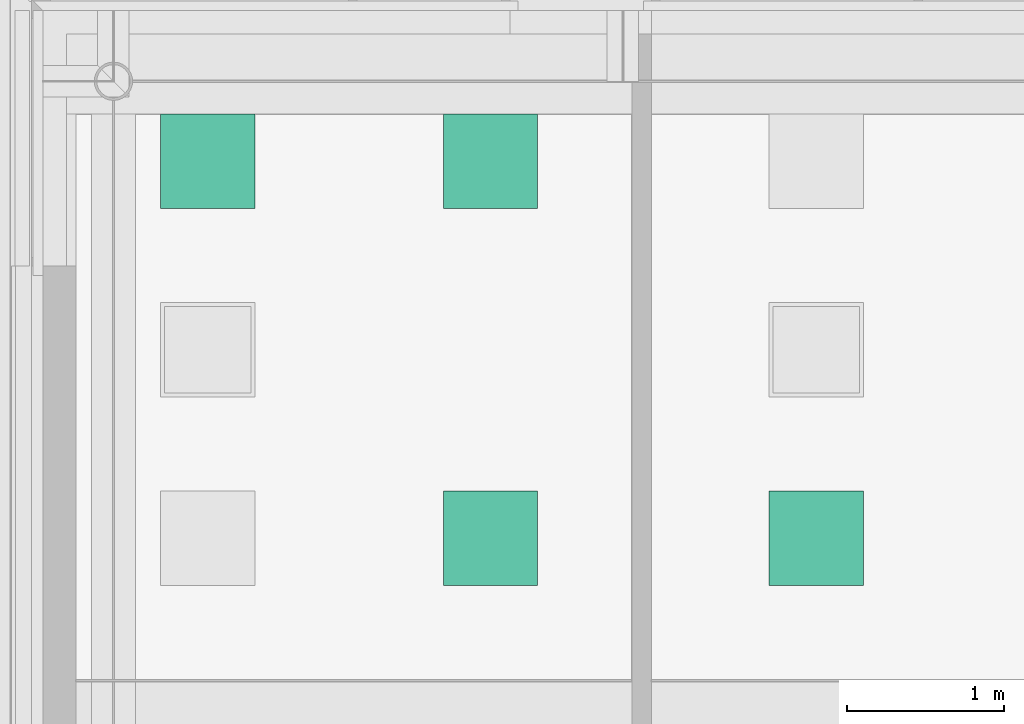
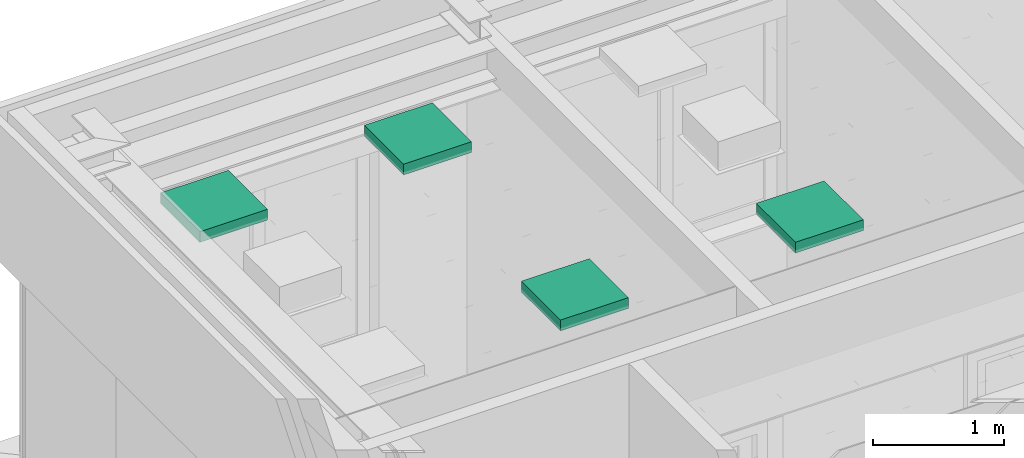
# One storey, part 196 of 347: 4 flow terminals.
"""IFC2X3 building model written with IfcOpenShell, lengths in millimetres."""

from ifc_helpers import new_model, entity, si_unit, converted_unit, derived_unit, money_unit, direction, frame, origin_with_axes, place, context, subcontext, project, spatial, open_shell, faceted_brep, surface_model, source, transform, mapped, type_object, type_shapes, element, save


model = new_model("IFC2X3")

# Units and contexts
model_context = context("Model", 3, precision=0.01, world=origin_with_axes(), true_north=direction((0.0, 1.0)))
plan_context = context("Plan", 3, precision=0.01, world=origin_with_axes(), true_north=direction((0.0, 1.0)))
body_context = subcontext(model_context, "Body", "Model", "MODEL_VIEW")
ifc_project = project(units=[si_unit("LENGTHUNIT", "METRE", prefix="MILLI"), si_unit("AREAUNIT", "SQUARE_METRE"), si_unit("VOLUMEUNIT", "CUBIC_METRE"), converted_unit("PLANEANGLEUNIT", "DEGREE", entity("IfcPlaneAngleMeasure", 0.0174532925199), si_unit("PLANEANGLEUNIT", "RADIAN"), dimensions=[0, 0, 0, 0, 0, 0, 0]), money_unit("EUR"), converted_unit("TIMEUNIT", "Year", entity("IfcTimeMeasure", 31556926.0), si_unit("TIMEUNIT", "SECOND"), dimensions=[0, 0, 1, 0, 0, 0, 0]), si_unit("MASSUNIT", "GRAM", prefix="KILO"), si_unit("THERMODYNAMICTEMPERATUREUNIT", "DEGREE_CELSIUS"), si_unit("LUMINOUSINTENSITYUNIT", "LUMEN"), si_unit("ENERGYUNIT", "JOULE", prefix="MEGA"), derived_unit("THERMALCONDUCTANCEUNIT", [(si_unit("POWERUNIT", "WATT"), 1), (si_unit("LENGTHUNIT", "METRE"), -1), (si_unit("THERMODYNAMICTEMPERATUREUNIT", "KELVIN"), -1)]), derived_unit("SPECIFICHEATCAPACITYUNIT", [(si_unit("ENERGYUNIT", "JOULE"), 1), (si_unit("MASSUNIT", "GRAM", prefix="KILO"), -1), (si_unit("THERMODYNAMICTEMPERATUREUNIT", "KELVIN"), -1)]), derived_unit("MASSDENSITYUNIT", [(si_unit("MASSUNIT", "GRAM", prefix="KILO"), 1), (si_unit("VOLUMEUNIT", "CUBIC_METRE"), -1)])], contexts=[model_context, plan_context])

# Site, building, storey
site_placement = place(None, origin_with_axes())
site = spatial("IfcSite", under=ifc_project, at=site_placement, Name="Site", CompositionType="ELEMENT")
building_placement = place(site_placement, origin_with_axes())
building = spatial("IfcBuilding", under=site, at=building_placement, Name="Naam gebouw", CompositionType="ELEMENT")
storey_placement = place(building_placement, origin_with_axes())
storey = spatial("IfcBuildingStorey", under=building, at=storey_placement, Name="begane grond", CompositionType="ELEMENT", Elevation=0.0)

# Flow terminals
lamp_type = type_object("IfcLampType", Name="TL plafond 25", PredefinedType="NOTDEFINED")
shared_shape = source(origin_with_axes(), body_context, "Body", "SurfaceModel", [
    faceted_brep([(0.0, 0.0, -100.0), (600.0, 0.0, -100.0), (600.0, 0.0, 0.0), (0.0, 0.0, 0.0), (0.0, 600.0, -100.0), (600.0, 600.0, -100.0), (40.0, 40.0, -100.0), (560.0, 40.0, -100.0), (560.0, 560.0, -100.0), (40.0, 560.0, -100.0), (600.0, 600.0, 0.0), (0.0, 600.0, 0.0), (40.0, 40.0, 0.0), (40.0, 560.0, 0.0), (560.0, 560.0, 0.0), (560.0, 40.0, 0.0)], [[[0, 1, 2, 3]], [[0, 4, 5, 1], [6, 7, 8, 9]], [[1, 5, 10, 2]], [[3, 2, 10, 11], [12, 13, 14, 15]], [[4, 0, 3, 11]], [[5, 4, 11, 10]], [[7, 6, 12, 15]], [[8, 7, 15, 14]], [[9, 8, 14, 13]], [[6, 9, 13, 12]]]),
    faceted_brep([(40.0, 40.0, -16.3333333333), (560.0, 40.0, -16.3333333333), (560.0, 40.0, 0.0), (40.0, 40.0, 0.0), (40.0, 560.0, -16.3333333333), (560.0, 560.0, -16.3333333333), (560.0, 560.0, 0.0), (40.0, 560.0, 0.0)], [[[0, 1, 2, 3]], [[0, 4, 5, 1]], [[1, 5, 6, 2]], [[3, 2, 6, 7]], [[4, 0, 3, 7]], [[5, 4, 7, 6]]]),
    surface_model("IfcShellBasedSurfaceModel", [(559.0, 41.0, -100.0), (40.0, 41.0, -100.0), (40.0, 559.0, -100.0), (559.0, 559.0, -100.0)], [open_shell([[[0, 1, 2, 3]]])]),
    faceted_brep([(40.0, 40.0, -100.0), (560.0, 40.0, -100.0), (560.0, 40.0, -60.0), (40.0, 40.0, -60.0), (40.0, 560.0, -100.0), (560.0, 560.0, -100.0), (41.0, 41.0, -100.0), (559.0, 41.0, -100.0), (559.0, 559.0, -100.0), (41.0, 559.0, -100.0), (560.0, 560.0, -60.0), (40.0, 560.0, -60.0), (41.0, 41.0, -60.0), (41.0, 559.0, -60.0), (559.0, 559.0, -60.0), (559.0, 41.0, -60.0)], [[[0, 1, 2, 3]], [[0, 4, 5, 1], [6, 7, 8, 9]], [[1, 5, 10, 2]], [[3, 2, 10, 11], [12, 13, 14, 15]], [[4, 0, 3, 11]], [[5, 4, 11, 10]], [[7, 6, 12, 15]], [[8, 7, 15, 14]], [[9, 8, 14, 13]], [[6, 9, 13, 12]]]),
    faceted_brep([(40.0, 144.0, -48.3333333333), (40.0, 149.740251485, -47.191526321), (560.0, 149.740251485, -47.191526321), (560.0, 144.0, -48.3333333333), (40.0, 138.259748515, -47.191526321), (40.0, 133.393398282, -43.9399350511), (40.0, 130.141807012, -39.0735848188), (40.0, 129.0, -33.3333333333), (40.0, 130.141807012, -27.5930818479), (40.0, 133.393398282, -22.7267316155), (40.0, 138.259748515, -19.4751403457), (40.0, 144.0, -18.3333333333), (40.0, 149.740251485, -19.4751403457), (40.0, 154.606601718, -22.7267316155), (40.0, 157.858192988, -27.5930818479), (40.0, 159.0, -33.3333333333), (40.0, 157.858192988, -39.0735848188), (40.0, 154.606601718, -43.9399350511), (40.0, 144.0, -46.3333333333), (40.0, 148.974884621, -45.343767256), (40.0, 153.192388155, -42.5257214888), (40.0, 156.010433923, -38.3082179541), (40.0, 157.0, -33.3333333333), (40.0, 156.010433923, -28.3584487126), (40.0, 153.192388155, -24.1409451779), (40.0, 148.974884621, -21.3228994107), (40.0, 144.0, -20.3333333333), (40.0, 139.025115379, -21.3228994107), (40.0, 134.807611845, -24.1409451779), (40.0, 131.989566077, -28.3584487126), (40.0, 131.0, -33.3333333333), (40.0, 131.989566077, -38.3082179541), (40.0, 134.807611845, -42.5257214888), (40.0, 139.025115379, -45.343767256), (560.0, 154.606601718, -43.9399350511), (560.0, 157.858192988, -39.0735848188), (560.0, 159.0, -33.3333333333), (560.0, 157.858192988, -27.5930818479), (560.0, 154.606601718, -22.7267316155), (560.0, 149.740251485, -19.4751403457), (560.0, 144.0, -18.3333333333), (560.0, 138.259748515, -19.4751403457), (560.0, 133.393398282, -22.7267316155), (560.0, 130.141807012, -27.5930818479), (560.0, 129.0, -33.3333333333), (560.0, 130.141807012, -39.0735848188), (560.0, 133.393398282, -43.9399350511), (560.0, 138.259748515, -47.191526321), (560.0, 144.0, -46.3333333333), (560.0, 139.025115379, -45.343767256), (560.0, 134.807611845, -42.5257214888), (560.0, 131.989566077, -38.3082179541), (560.0, 131.0, -33.3333333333), (560.0, 131.989566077, -28.3584487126), (560.0, 134.807611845, -24.1409451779), (560.0, 139.025115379, -21.3228994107), (560.0, 144.0, -20.3333333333), (560.0, 148.974884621, -21.3228994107), (560.0, 153.192388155, -24.1409451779), (560.0, 156.010433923, -28.3584487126), (560.0, 157.0, -33.3333333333), (560.0, 156.010433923, -38.3082179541), (560.0, 153.192388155, -42.5257214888), (560.0, 148.974884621, -45.343767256)], [[[0, 1, 2, 3]], [[0, 4, 5, 6, 7, 8, 9, 10, 11, 12, 13, 14, 15, 16, 17, 1], [18, 19, 20, 21, 22, 23, 24, 25, 26, 27, 28, 29, 30, 31, 32, 33]], [[1, 17, 34, 2]], [[3, 2, 34, 35, 36, 37, 38, 39, 40, 41, 42, 43, 44, 45, 46, 47], [48, 49, 50, 51, 52, 53, 54, 55, 56, 57, 58, 59, 60, 61, 62, 63]], [[4, 0, 3, 47]], [[5, 4, 47, 46]], [[6, 5, 46, 45]], [[7, 6, 45, 44]], [[8, 7, 44, 43]], [[9, 8, 43, 42]], [[10, 9, 42, 41]], [[11, 10, 41, 40]], [[12, 11, 40, 39]], [[13, 12, 39, 38]], [[14, 13, 38, 37]], [[15, 14, 37, 36]], [[16, 15, 36, 35]], [[17, 16, 35, 34]], [[19, 18, 48, 63]], [[20, 19, 63, 62]], [[21, 20, 62, 61]], [[22, 21, 61, 60]], [[23, 22, 60, 59]], [[24, 23, 59, 58]], [[25, 24, 58, 57]], [[26, 25, 57, 56]], [[27, 26, 56, 55]], [[28, 27, 55, 54]], [[29, 28, 54, 53]], [[30, 29, 53, 52]], [[31, 30, 52, 51]], [[32, 31, 51, 50]], [[33, 32, 50, 49]], [[18, 33, 49, 48]]]),
    faceted_brep([(40.0, 248.0, -48.3333333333), (40.0, 253.740251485, -47.191526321), (560.0, 253.740251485, -47.191526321), (560.0, 248.0, -48.3333333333), (40.0, 242.259748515, -47.191526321), (40.0, 237.393398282, -43.9399350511), (40.0, 234.141807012, -39.0735848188), (40.0, 233.0, -33.3333333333), (40.0, 234.141807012, -27.5930818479), (40.0, 237.393398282, -22.7267316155), (40.0, 242.259748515, -19.4751403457), (40.0, 248.0, -18.3333333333), (40.0, 253.740251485, -19.4751403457), (40.0, 258.606601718, -22.7267316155), (40.0, 261.858192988, -27.5930818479), (40.0, 263.0, -33.3333333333), (40.0, 261.858192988, -39.0735848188), (40.0, 258.606601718, -43.9399350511), (40.0, 248.0, -46.3333333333), (40.0, 252.974884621, -45.343767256), (40.0, 257.192388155, -42.5257214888), (40.0, 260.010433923, -38.3082179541), (40.0, 261.0, -33.3333333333), (40.0, 260.010433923, -28.3584487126), (40.0, 257.192388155, -24.1409451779), (40.0, 252.974884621, -21.3228994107), (40.0, 248.0, -20.3333333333), (40.0, 243.025115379, -21.3228994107), (40.0, 238.807611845, -24.1409451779), (40.0, 235.989566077, -28.3584487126), (40.0, 235.0, -33.3333333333), (40.0, 235.989566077, -38.3082179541), (40.0, 238.807611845, -42.5257214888), (40.0, 243.025115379, -45.343767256), (560.0, 258.606601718, -43.9399350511), (560.0, 261.858192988, -39.0735848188), (560.0, 263.0, -33.3333333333), (560.0, 261.858192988, -27.5930818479), (560.0, 258.606601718, -22.7267316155), (560.0, 253.740251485, -19.4751403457), (560.0, 248.0, -18.3333333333), (560.0, 242.259748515, -19.4751403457), (560.0, 237.393398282, -22.7267316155), (560.0, 234.141807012, -27.5930818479), (560.0, 233.0, -33.3333333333), (560.0, 234.141807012, -39.0735848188), (560.0, 237.393398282, -43.9399350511), (560.0, 242.259748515, -47.191526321), (560.0, 248.0, -46.3333333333), (560.0, 243.025115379, -45.343767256), (560.0, 238.807611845, -42.5257214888), (560.0, 235.989566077, -38.3082179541), (560.0, 235.0, -33.3333333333), (560.0, 235.989566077, -28.3584487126), (560.0, 238.807611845, -24.1409451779), (560.0, 243.025115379, -21.3228994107), (560.0, 248.0, -20.3333333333), (560.0, 252.974884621, -21.3228994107), (560.0, 257.192388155, -24.1409451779), (560.0, 260.010433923, -28.3584487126), (560.0, 261.0, -33.3333333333), (560.0, 260.010433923, -38.3082179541), (560.0, 257.192388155, -42.5257214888), (560.0, 252.974884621, -45.343767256)], [[[0, 1, 2, 3]], [[0, 4, 5, 6, 7, 8, 9, 10, 11, 12, 13, 14, 15, 16, 17, 1], [18, 19, 20, 21, 22, 23, 24, 25, 26, 27, 28, 29, 30, 31, 32, 33]], [[1, 17, 34, 2]], [[3, 2, 34, 35, 36, 37, 38, 39, 40, 41, 42, 43, 44, 45, 46, 47], [48, 49, 50, 51, 52, 53, 54, 55, 56, 57, 58, 59, 60, 61, 62, 63]], [[4, 0, 3, 47]], [[5, 4, 47, 46]], [[6, 5, 46, 45]], [[7, 6, 45, 44]], [[8, 7, 44, 43]], [[9, 8, 43, 42]], [[10, 9, 42, 41]], [[11, 10, 41, 40]], [[12, 11, 40, 39]], [[13, 12, 39, 38]], [[14, 13, 38, 37]], [[15, 14, 37, 36]], [[16, 15, 36, 35]], [[17, 16, 35, 34]], [[19, 18, 48, 63]], [[20, 19, 63, 62]], [[21, 20, 62, 61]], [[22, 21, 61, 60]], [[23, 22, 60, 59]], [[24, 23, 59, 58]], [[25, 24, 58, 57]], [[26, 25, 57, 56]], [[27, 26, 56, 55]], [[28, 27, 55, 54]], [[29, 28, 54, 53]], [[30, 29, 53, 52]], [[31, 30, 52, 51]], [[32, 31, 51, 50]], [[33, 32, 50, 49]], [[18, 33, 49, 48]]]),
    faceted_brep([(40.0, 352.0, -48.3333333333), (40.0, 357.740251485, -47.191526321), (560.0, 357.740251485, -47.191526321), (560.0, 352.0, -48.3333333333), (40.0, 346.259748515, -47.191526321), (40.0, 341.393398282, -43.9399350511), (40.0, 338.141807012, -39.0735848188), (40.0, 337.0, -33.3333333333), (40.0, 338.141807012, -27.5930818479), (40.0, 341.393398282, -22.7267316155), (40.0, 346.259748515, -19.4751403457), (40.0, 352.0, -18.3333333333), (40.0, 357.740251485, -19.4751403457), (40.0, 362.606601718, -22.7267316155), (40.0, 365.858192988, -27.5930818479), (40.0, 367.0, -33.3333333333), (40.0, 365.858192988, -39.0735848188), (40.0, 362.606601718, -43.9399350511), (40.0, 352.0, -46.3333333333), (40.0, 356.974884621, -45.343767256), (40.0, 361.192388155, -42.5257214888), (40.0, 364.010433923, -38.3082179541), (40.0, 365.0, -33.3333333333), (40.0, 364.010433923, -28.3584487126), (40.0, 361.192388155, -24.1409451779), (40.0, 356.974884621, -21.3228994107), (40.0, 352.0, -20.3333333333), (40.0, 347.025115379, -21.3228994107), (40.0, 342.807611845, -24.1409451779), (40.0, 339.989566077, -28.3584487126), (40.0, 339.0, -33.3333333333), (40.0, 339.989566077, -38.3082179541), (40.0, 342.807611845, -42.5257214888), (40.0, 347.025115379, -45.343767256), (560.0, 362.606601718, -43.9399350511), (560.0, 365.858192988, -39.0735848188), (560.0, 367.0, -33.3333333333), (560.0, 365.858192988, -27.5930818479), (560.0, 362.606601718, -22.7267316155), (560.0, 357.740251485, -19.4751403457), (560.0, 352.0, -18.3333333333), (560.0, 346.259748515, -19.4751403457), (560.0, 341.393398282, -22.7267316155), (560.0, 338.141807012, -27.5930818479), (560.0, 337.0, -33.3333333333), (560.0, 338.141807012, -39.0735848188), (560.0, 341.393398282, -43.9399350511), (560.0, 346.259748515, -47.191526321), (560.0, 352.0, -46.3333333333), (560.0, 347.025115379, -45.343767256), (560.0, 342.807611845, -42.5257214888), (560.0, 339.989566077, -38.3082179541), (560.0, 339.0, -33.3333333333), (560.0, 339.989566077, -28.3584487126), (560.0, 342.807611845, -24.1409451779), (560.0, 347.025115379, -21.3228994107), (560.0, 352.0, -20.3333333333), (560.0, 356.974884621, -21.3228994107), (560.0, 361.192388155, -24.1409451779), (560.0, 364.010433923, -28.3584487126), (560.0, 365.0, -33.3333333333), (560.0, 364.010433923, -38.3082179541), (560.0, 361.192388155, -42.5257214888), (560.0, 356.974884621, -45.343767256)], [[[0, 1, 2, 3]], [[0, 4, 5, 6, 7, 8, 9, 10, 11, 12, 13, 14, 15, 16, 17, 1], [18, 19, 20, 21, 22, 23, 24, 25, 26, 27, 28, 29, 30, 31, 32, 33]], [[1, 17, 34, 2]], [[3, 2, 34, 35, 36, 37, 38, 39, 40, 41, 42, 43, 44, 45, 46, 47], [48, 49, 50, 51, 52, 53, 54, 55, 56, 57, 58, 59, 60, 61, 62, 63]], [[4, 0, 3, 47]], [[5, 4, 47, 46]], [[6, 5, 46, 45]], [[7, 6, 45, 44]], [[8, 7, 44, 43]], [[9, 8, 43, 42]], [[10, 9, 42, 41]], [[11, 10, 41, 40]], [[12, 11, 40, 39]], [[13, 12, 39, 38]], [[14, 13, 38, 37]], [[15, 14, 37, 36]], [[16, 15, 36, 35]], [[17, 16, 35, 34]], [[19, 18, 48, 63]], [[20, 19, 63, 62]], [[21, 20, 62, 61]], [[22, 21, 61, 60]], [[23, 22, 60, 59]], [[24, 23, 59, 58]], [[25, 24, 58, 57]], [[26, 25, 57, 56]], [[27, 26, 56, 55]], [[28, 27, 55, 54]], [[29, 28, 54, 53]], [[30, 29, 53, 52]], [[31, 30, 52, 51]], [[32, 31, 51, 50]], [[33, 32, 50, 49]], [[18, 33, 49, 48]]]),
    faceted_brep([(40.0, 456.0, -48.3333333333), (40.0, 461.740251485, -47.191526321), (560.0, 461.740251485, -47.191526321), (560.0, 456.0, -48.3333333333), (40.0, 450.259748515, -47.191526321), (40.0, 445.393398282, -43.9399350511), (40.0, 442.141807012, -39.0735848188), (40.0, 441.0, -33.3333333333), (40.0, 442.141807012, -27.5930818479), (40.0, 445.393398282, -22.7267316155), (40.0, 450.259748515, -19.4751403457), (40.0, 456.0, -18.3333333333), (40.0, 461.740251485, -19.4751403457), (40.0, 466.606601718, -22.7267316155), (40.0, 469.858192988, -27.5930818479), (40.0, 471.0, -33.3333333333), (40.0, 469.858192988, -39.0735848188), (40.0, 466.606601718, -43.9399350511), (40.0, 456.0, -46.3333333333), (40.0, 460.974884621, -45.343767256), (40.0, 465.192388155, -42.5257214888), (40.0, 468.010433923, -38.3082179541), (40.0, 469.0, -33.3333333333), (40.0, 468.010433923, -28.3584487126), (40.0, 465.192388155, -24.1409451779), (40.0, 460.974884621, -21.3228994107), (40.0, 456.0, -20.3333333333), (40.0, 451.025115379, -21.3228994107), (40.0, 446.807611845, -24.1409451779), (40.0, 443.989566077, -28.3584487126), (40.0, 443.0, -33.3333333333), (40.0, 443.989566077, -38.3082179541), (40.0, 446.807611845, -42.5257214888), (40.0, 451.025115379, -45.343767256), (560.0, 466.606601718, -43.9399350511), (560.0, 469.858192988, -39.0735848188), (560.0, 471.0, -33.3333333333), (560.0, 469.858192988, -27.5930818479), (560.0, 466.606601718, -22.7267316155), (560.0, 461.740251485, -19.4751403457), (560.0, 456.0, -18.3333333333), (560.0, 450.259748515, -19.4751403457), (560.0, 445.393398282, -22.7267316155), (560.0, 442.141807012, -27.5930818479), (560.0, 441.0, -33.3333333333), (560.0, 442.141807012, -39.0735848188), (560.0, 445.393398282, -43.9399350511), (560.0, 450.259748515, -47.191526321), (560.0, 456.0, -46.3333333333), (560.0, 451.025115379, -45.343767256), (560.0, 446.807611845, -42.5257214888), (560.0, 443.989566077, -38.3082179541), (560.0, 443.0, -33.3333333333), (560.0, 443.989566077, -28.3584487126), (560.0, 446.807611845, -24.1409451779), (560.0, 451.025115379, -21.3228994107), (560.0, 456.0, -20.3333333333), (560.0, 460.974884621, -21.3228994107), (560.0, 465.192388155, -24.1409451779), (560.0, 468.010433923, -28.3584487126), (560.0, 469.0, -33.3333333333), (560.0, 468.010433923, -38.3082179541), (560.0, 465.192388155, -42.5257214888), (560.0, 460.974884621, -45.343767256)], [[[0, 1, 2, 3]], [[0, 4, 5, 6, 7, 8, 9, 10, 11, 12, 13, 14, 15, 16, 17, 1], [18, 19, 20, 21, 22, 23, 24, 25, 26, 27, 28, 29, 30, 31, 32, 33]], [[1, 17, 34, 2]], [[3, 2, 34, 35, 36, 37, 38, 39, 40, 41, 42, 43, 44, 45, 46, 47], [48, 49, 50, 51, 52, 53, 54, 55, 56, 57, 58, 59, 60, 61, 62, 63]], [[4, 0, 3, 47]], [[5, 4, 47, 46]], [[6, 5, 46, 45]], [[7, 6, 45, 44]], [[8, 7, 44, 43]], [[9, 8, 43, 42]], [[10, 9, 42, 41]], [[11, 10, 41, 40]], [[12, 11, 40, 39]], [[13, 12, 39, 38]], [[14, 13, 38, 37]], [[15, 14, 37, 36]], [[16, 15, 36, 35]], [[17, 16, 35, 34]], [[19, 18, 48, 63]], [[20, 19, 63, 62]], [[21, 20, 62, 61]], [[22, 21, 61, 60]], [[23, 22, 60, 59]], [[24, 23, 59, 58]], [[25, 24, 58, 57]], [[26, 25, 57, 56]], [[27, 26, 56, 55]], [[28, 27, 55, 54]], [[29, 28, 54, 53]], [[30, 29, 53, 52]], [[31, 30, 52, 51]], [[32, 31, 51, 50]], [[33, 32, 50, 49]], [[18, 33, 49, 48]]]),
])
type_shapes(lamp_type, [shared_shape])
for number, where, z_axis, x_axis, name in (
    (1, (7400.0, 17890.000144, 3295.0), (0.0, 0.0, 1.0), (1.0, 0.0, 0.0), "63_Lamp-x"),
    (2, (5600.0, 17890.000144, 3295.0), (0.0, 0.0, 1.0), (1.0, 0.0, 0.0), "63_Lamp-x"),
    (3, (7400.0, 15490.000144, 3295.0), (0.0, 0.0, 1.0), (1.0, 0.0, 0.0), "63_Lamp-x"),
    (4, (9475.0, 15490.000144, 3295.0), (0.0, 0.0, 1.0), (1.0, 0.0, 0.0), "63_Lamp-x"),
):
    element("IfcFlowTerminal", number, at=place(storey_placement, frame(where, z_axis=z_axis, x_axis=x_axis)), inside=storey, type_object=lamp_type, Name=name, ObjectType="Lamp", context=body_context, shape_type="MappedRepresentation", body=[
        mapped(shared_shape, transform((0.0, 0.0, 0.0))),
    ])

save(model, "model.ifc")
